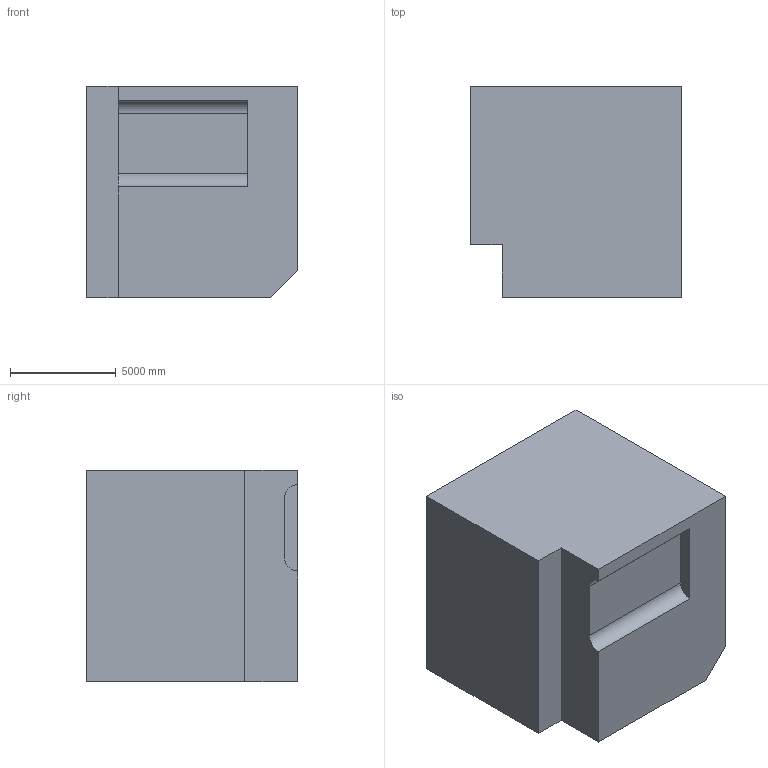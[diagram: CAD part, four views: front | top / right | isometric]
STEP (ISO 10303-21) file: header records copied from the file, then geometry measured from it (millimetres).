
FILE_DESCRIPTION (( 'STEP AP203' ), '1' );
FILE_NAME ('1278.STEP', '2022-08-18T13:31:50', ( 'user' ), ( '' ), 'SwSTEP 2.0', 'SolidWorks 2021', '' );
FILE_SCHEMA (( 'CONFIG_CONTROL_DESIGN' ));
Length unit declared in the file: centimetre
Products named in the file (1): 1278
Bounding box: 10000 x 10000 x 10000 mm (x, y, z)
Volume: 939332724568.7 mm3; surface area: 587575336.9 mm2
Topology: 1 solids, 1 shells, 13 faces, 33 edges, 22 vertices
Faces by surface type: plane 11, cylinder 2
Entity records: 468 total; most frequent: CARTESIAN_POINT 69, ORIENTED_EDGE 66, DIRECTION 65, EDGE_CURVE 33, LINE 29, VECTOR 29, VERTEX_POINT 22, AXIS2_PLACEMENT_3D 18
